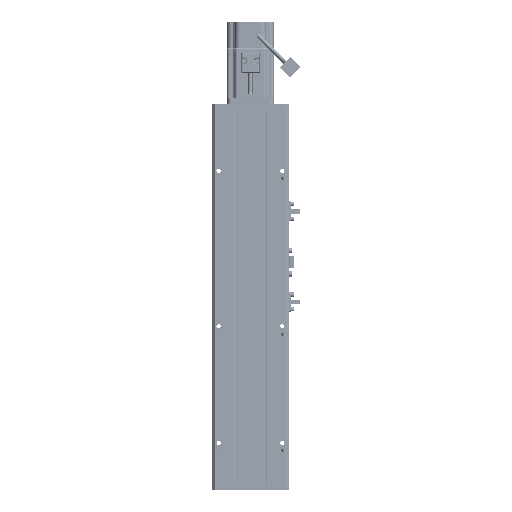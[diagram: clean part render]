
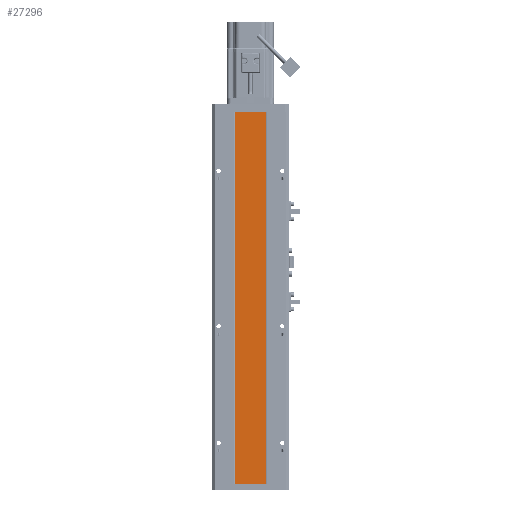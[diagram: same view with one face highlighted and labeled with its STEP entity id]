
A CAD part, front view. The second image highlights one B-rep face of the part: STEP entity #27296.
In plain terms, the highlighted planar face has unit normal (0, -1, 0).
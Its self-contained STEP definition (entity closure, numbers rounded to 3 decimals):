
#626 = DIRECTION ( 'NONE',  ( 0., 0., 1. ) ) ;
#2208 = VERTEX_POINT ( 'NONE', #21112 ) ;
#3628 = LINE ( 'NONE', #38488, #56186 ) ;
#6546 = LINE ( 'NONE', #61871, #24743 ) ;
#8626 = EDGE_CURVE ( 'NONE', #63380, #2208, #42562, .T. ) ;
#12201 = CARTESIAN_POINT ( 'NONE',  ( 20., 0., -478.5 ) ) ;
#13868 = DIRECTION ( 'NONE',  ( -1., 0., 0. ) ) ;
#20723 = CARTESIAN_POINT ( 'NONE',  ( 20., 0., -478.5 ) ) ;
#21112 = CARTESIAN_POINT ( 'NONE',  ( -20., 0., 0. ) ) ;
#23714 = VERTEX_POINT ( 'NONE', #59755 ) ;
#23931 = EDGE_CURVE ( 'NONE', #75671, #23714, #82130, .T. ) ;
#24743 = VECTOR ( 'NONE', #13868, 1000. ) ;
#26851 = CARTESIAN_POINT ( 'NONE',  ( -20., 0., -478.5 ) ) ;
#27296 = ADVANCED_FACE ( 'NONE', ( #32193 ), #33077, .F. ) ;
#32193 = FACE_OUTER_BOUND ( 'NONE', #47357, .T. ) ;
#33077 = PLANE ( 'NONE',  #34598 ) ;
#34598 = AXIS2_PLACEMENT_3D ( 'NONE', #12201, #81241, #39952 ) ;
#38488 = CARTESIAN_POINT ( 'NONE',  ( 20., 0., 0. ) ) ;
#39952 = DIRECTION ( 'NONE',  ( -1., 0., 0. ) ) ;
#40972 = ORIENTED_EDGE ( 'NONE', *, *, #64233, .T. ) ;
#41631 = VECTOR ( 'NONE', #73493, 1000. ) ;
#42562 = LINE ( 'NONE', #73588, #41631 ) ;
#45113 = ORIENTED_EDGE ( 'NONE', *, *, #8626, .F. ) ;
#45265 = ORIENTED_EDGE ( 'NONE', *, *, #81239, .F. ) ;
#45302 = DIRECTION ( 'NONE',  ( -1., 0., 0. ) ) ;
#47357 = EDGE_LOOP ( 'NONE', ( #40972, #45113, #45265, #48439 ) ) ;
#48439 = ORIENTED_EDGE ( 'NONE', *, *, #23931, .T. ) ;
#56186 = VECTOR ( 'NONE', #45302, 1000. ) ;
#59755 = CARTESIAN_POINT ( 'NONE',  ( 20., 0., 0. ) ) ;
#61871 = CARTESIAN_POINT ( 'NONE',  ( 20., 0., -478.5 ) ) ;
#63288 = CARTESIAN_POINT ( 'NONE',  ( 20., 0., -478.5 ) ) ;
#63380 = VERTEX_POINT ( 'NONE', #26851 ) ;
#64233 = EDGE_CURVE ( 'NONE', #23714, #2208, #3628, .T. ) ;
#73493 = DIRECTION ( 'NONE',  ( 0., 0., 1. ) ) ;
#73588 = CARTESIAN_POINT ( 'NONE',  ( -20., 0., -478.5 ) ) ;
#75671 = VERTEX_POINT ( 'NONE', #63288 ) ;
#81239 = EDGE_CURVE ( 'NONE', #75671, #63380, #6546, .T. ) ;
#81241 = DIRECTION ( 'NONE',  ( 0., 1., 0. ) ) ;
#81293 = VECTOR ( 'NONE', #626, 1000. ) ;
#82130 = LINE ( 'NONE', #20723, #81293 ) ;
